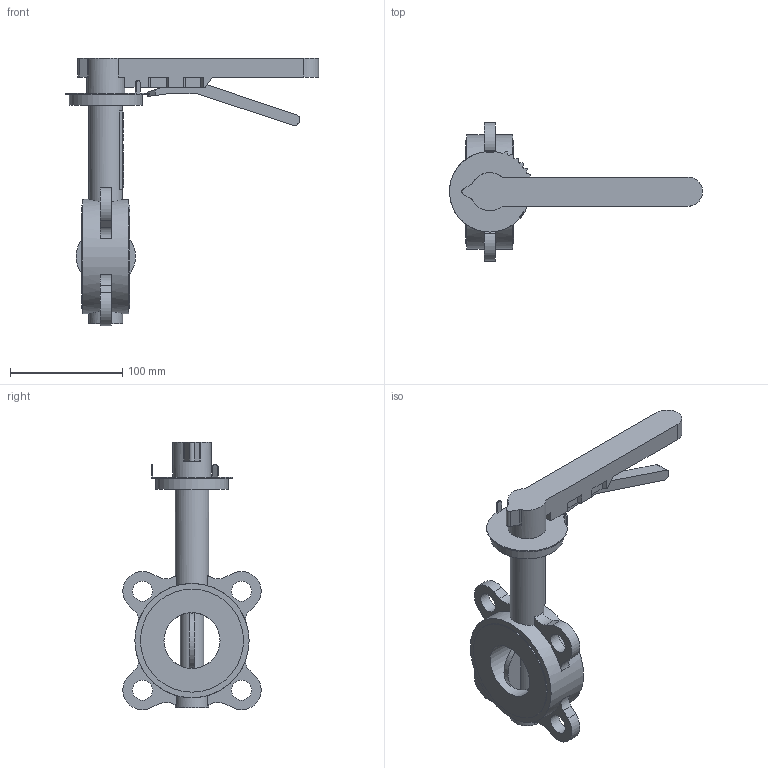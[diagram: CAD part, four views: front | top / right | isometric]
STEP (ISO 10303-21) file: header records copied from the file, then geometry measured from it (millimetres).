
FILE_DESCRIPTION(('STEP AP203'), '1');
FILE_NAME('青蜮铕 015WDN50', '', ('UNSPECIFIED'), ('UNSPECIFIED'), 'ASCON STEP Converter 1.6', 'ASCON Math Kernel', '');
FILE_SCHEMA(('CONFIG_CONTROL_DESIGN'));
Length unit declared in the file: millimetre
Bounding box: 225.97 x 123.26 x 238.63 mm (x, y, z)
Volume: 138340.1 mm3; surface area: 101015.8 mm2
Topology: 1 solids, 2 shells, 698 faces, 2054 edges, 1324 vertices
Faces by surface type: cylinder 466, plane 232
Full cylindrical faces by diameter (mm): 8 x4, 12.6 x1, 18 x4, 21 x1, 30 x2, 34 x1, 35 x1, 50 x1, 65 x1, 92 x2, 102 x1
Entity records: 30201 total; most frequent: CARTESIAN_POINT 5145, DIRECTION 4389, ORIENTED_EDGE 4009, EDGE_CURVE 2036, AXIS2_PLACEMENT_3D 1683, VERTEX_POINT 1324, LINE 1023, VECTOR 1023
